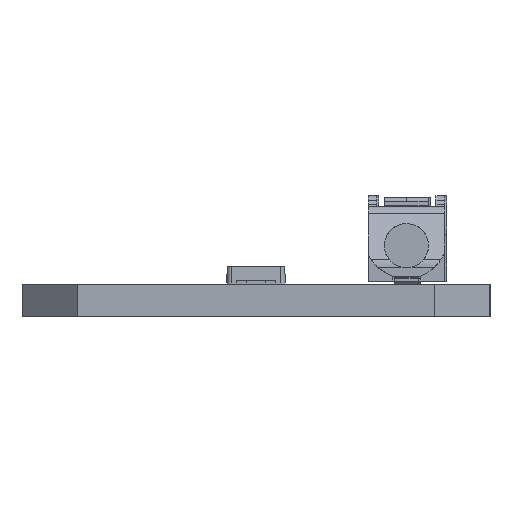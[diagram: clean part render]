
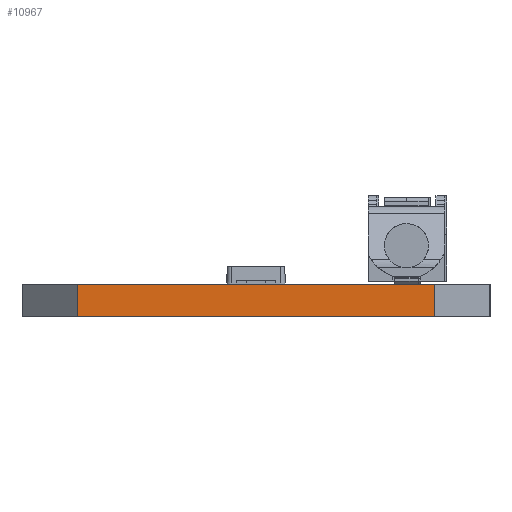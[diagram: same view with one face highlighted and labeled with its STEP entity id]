
A CAD part, left-side view. The second image highlights one B-rep face of the part: STEP entity #10967.
In plain terms, the highlighted planar face has unit normal (-1, 0, 0).
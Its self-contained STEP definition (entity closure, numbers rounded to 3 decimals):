
#1075=DIRECTION('',(0.,0.,1.));
#1076=VECTOR('',#1075,1.65);
#1077=CARTESIAN_POINT('',(-69.9,-9.1,0.));
#1078=LINE('',#1077,#1076);
#1082=DIRECTION('',(0.,0.,1.));
#1083=VECTOR('',#1082,1.65);
#1084=CARTESIAN_POINT('',(-69.9,9.1,0.));
#1085=LINE('',#1084,#1083);
#1089=DIRECTION('',(0.,-1.,0.));
#1090=VECTOR('',#1089,18.2);
#1091=CARTESIAN_POINT('',(-69.9,9.1,1.65));
#1092=LINE('',#1091,#1090);
#1096=DIRECTION('',(0.,1.,0.));
#1097=VECTOR('',#1096,18.2);
#1098=CARTESIAN_POINT('',(-69.9,-9.1,0.));
#1099=LINE('',#1098,#1097);
#8717=CARTESIAN_POINT('',(-69.9,9.1,0.));
#8718=VERTEX_POINT('',#8717);
#8719=CARTESIAN_POINT('',(-69.9,-9.1,0.));
#8720=VERTEX_POINT('',#8719);
#8743=CARTESIAN_POINT('',(-69.9,9.1,1.65));
#8744=VERTEX_POINT('',#8743);
#8745=CARTESIAN_POINT('',(-69.9,-9.1,1.65));
#8746=VERTEX_POINT('',#8745);
#10955=CARTESIAN_POINT('',(-69.9,0.,0.825));
#10956=DIRECTION('',(1.,0.,0.));
#10957=DIRECTION('',(0.,0.,1.));
#10958=AXIS2_PLACEMENT_3D('',#10955,#10956,#10957);
#10959=PLANE('',#10958);
#10961=ORIENTED_EDGE('',*,*,#10960,.T.);
#10962=ORIENTED_EDGE('',*,*,#10297,.T.);
#10963=ORIENTED_EDGE('',*,*,#10940,.F.);
#10964=ORIENTED_EDGE('',*,*,#10762,.T.);
#10965=EDGE_LOOP('',(#10961,#10962,#10963,#10964));
#10966=FACE_OUTER_BOUND('',#10965,.F.);
#10297=EDGE_CURVE('',#8744,#8746,#1092,.T.);
#10762=EDGE_CURVE('',#8720,#8718,#1099,.T.);
#10940=EDGE_CURVE('',#8720,#8746,#1078,.T.);
#10960=EDGE_CURVE('',#8718,#8744,#1085,.T.);
#10967=ADVANCED_FACE('',(#10966),#10959,.F.);
